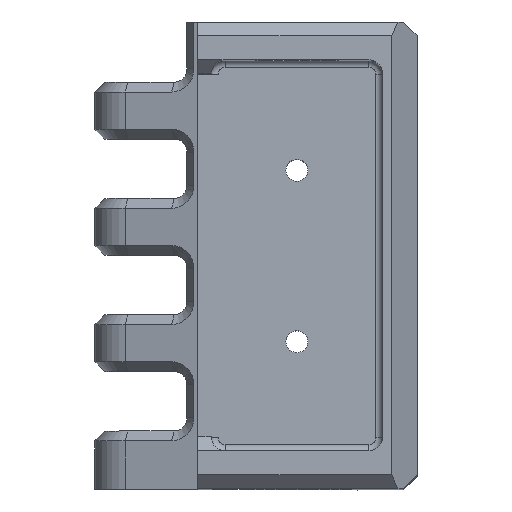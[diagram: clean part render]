
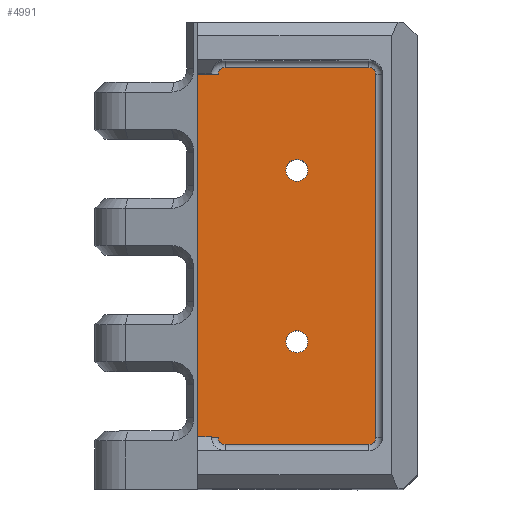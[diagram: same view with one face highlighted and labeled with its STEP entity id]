
A CAD part, top view. The second image highlights one B-rep face of the part: STEP entity #4991.
In plain terms, the highlighted planar face has unit normal (0, 0, 1).
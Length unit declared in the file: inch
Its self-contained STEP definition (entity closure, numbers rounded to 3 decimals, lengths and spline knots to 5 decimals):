
#52 = CARTESIAN_POINT ( 'NONE',  ( 1.4975, 1.655, 0. ) ) ;
#165 = EDGE_CURVE ( 'NONE', #937, #2949, #3794, .T. ) ;
#168 = AXIS2_PLACEMENT_3D ( 'NONE', #508, #7716, #1343 ) ;
#299 = EDGE_CURVE ( 'NONE', #5999, #2026, #6523, .T. ) ;
#494 = DIRECTION ( 'NONE',  ( 0., 0., 1. ) ) ;
#502 = FACE_OUTER_BOUND ( 'NONE', #5073, .T. ) ;
#508 = CARTESIAN_POINT ( 'NONE',  ( 0.78, -0.78, 0. ) ) ;
#516 = ORIENTED_EDGE ( 'NONE', *, *, #1718, .T. ) ;
#598 = FACE_BOUND ( 'NONE', #873, .T. ) ;
#636 = EDGE_CURVE ( 'NONE', #2949, #1066, #2157, .T. ) ;
#873 = EDGE_LOOP ( 'NONE', ( #5962, #4047 ) ) ;
#926 = VECTOR ( 'NONE', #3933, 39.37008 ) ;
#937 = VERTEX_POINT ( 'NONE', #1166 ) ;
#1066 = VERTEX_POINT ( 'NONE', #52 ) ;
#1099 = LINE ( 'NONE', #1750, #926 ) ;
#1154 = CARTESIAN_POINT ( 'NONE',  ( -0.125, 1.655, 0. ) ) ;
#1166 = CARTESIAN_POINT ( 'NONE',  ( 1.435, -1.7175, 0. ) ) ;
#1202 = EDGE_CURVE ( 'NONE', #7675, #6332, #4275, .T. ) ;
#1246 = PLANE ( 'NONE',  #4499 ) ;
#1343 = DIRECTION ( 'NONE',  ( 1., 0., 0. ) ) ;
#1456 = DIRECTION ( 'NONE',  ( 0., 1., 0. ) ) ;
#1552 = CIRCLE ( 'NONE', #1693, 0.0625 ) ;
#1693 = AXIS2_PLACEMENT_3D ( 'NONE', #2089, #4931, #2775 ) ;
#1716 = VERTEX_POINT ( 'NONE', #2686 ) ;
#1718 = EDGE_CURVE ( 'NONE', #1066, #7675, #1552, .T. ) ;
#1745 = CARTESIAN_POINT ( 'NONE',  ( 0.68, -0.78, 0. ) ) ;
#1750 = CARTESIAN_POINT ( 'NONE',  ( 1.435, -1.7175, 0. ) ) ;
#1797 = DIRECTION ( 'NONE',  ( 0., 0., 1. ) ) ;
#1844 = CARTESIAN_POINT ( 'NONE',  ( 0.125, 1.7175, 0. ) ) ;
#1937 = CIRCLE ( 'NONE', #5222, 0.0625 ) ;
#1941 = ORIENTED_EDGE ( 'NONE', *, *, #3325, .F. ) ;
#1965 = DIRECTION ( 'NONE',  ( 1., 0., 0. ) ) ;
#2023 = VECTOR ( 'NONE', #6194, 39.37008 ) ;
#2026 = VERTEX_POINT ( 'NONE', #3596 ) ;
#2089 = CARTESIAN_POINT ( 'NONE',  ( 1.435, 1.655, 0. ) ) ;
#2157 = LINE ( 'NONE', #6394, #8776 ) ;
#2188 = ORIENTED_EDGE ( 'NONE', *, *, #636, .T. ) ;
#2374 = EDGE_CURVE ( 'NONE', #9142, #8793, #3387, .T. ) ;
#2449 = CARTESIAN_POINT ( 'NONE',  ( 0.125, -1.655, 0. ) ) ;
#2492 = DIRECTION ( 'NONE',  ( 0., 0., 1. ) ) ;
#2515 = EDGE_CURVE ( 'NONE', #7430, #7242, #2794, .T. ) ;
#2583 = DIRECTION ( 'NONE',  ( -1., 0., 0. ) ) ;
#2622 = CARTESIAN_POINT ( 'NONE',  ( -0.125, 1.655, 0. ) ) ;
#2685 = CARTESIAN_POINT ( 'NONE',  ( 0.125, -1.7175, 0. ) ) ;
#2686 = CARTESIAN_POINT ( 'NONE',  ( 0.0625, 1.655, 0. ) ) ;
#2775 = DIRECTION ( 'NONE',  ( -1., 0., 0. ) ) ;
#2794 = LINE ( 'NONE', #2935, #3971 ) ;
#2935 = CARTESIAN_POINT ( 'NONE',  ( -0.125, -1.655, 0. ) ) ;
#2949 = VERTEX_POINT ( 'NONE', #6005 ) ;
#2974 = ORIENTED_EDGE ( 'NONE', *, *, #5938, .F. ) ;
#3299 = ORIENTED_EDGE ( 'NONE', *, *, #299, .F. ) ;
#3325 = EDGE_CURVE ( 'NONE', #7242, #1716, #7447, .T. ) ;
#3330 = DIRECTION ( 'NONE',  ( 0., 0., -1. ) ) ;
#3387 = CIRCLE ( 'NONE', #6670, 0.1 ) ;
#3390 = VERTEX_POINT ( 'NONE', #5414 ) ;
#3462 = CARTESIAN_POINT ( 'NONE',  ( 0.125, 1.655, 0. ) ) ;
#3596 = CARTESIAN_POINT ( 'NONE',  ( 0.68, 0.78, 0. ) ) ;
#3751 = EDGE_LOOP ( 'NONE', ( #3299, #2974 ) ) ;
#3794 = CIRCLE ( 'NONE', #7801, 0.0625 ) ;
#3916 = DIRECTION ( 'NONE',  ( 0., 0., 1. ) ) ;
#3933 = DIRECTION ( 'NONE',  ( 1., 0., 0. ) ) ;
#3971 = VECTOR ( 'NONE', #8608, 39.37008 ) ;
#3975 = CARTESIAN_POINT ( 'NONE',  ( 1.435, -1.655, 0. ) ) ;
#3994 = CARTESIAN_POINT ( 'NONE',  ( -0.125, -1.655, 0. ) ) ;
#4047 = ORIENTED_EDGE ( 'NONE', *, *, #7772, .F. ) ;
#4275 = LINE ( 'NONE', #6119, #7654 ) ;
#4372 = ORIENTED_EDGE ( 'NONE', *, *, #2515, .F. ) ;
#4499 = AXIS2_PLACEMENT_3D ( 'NONE', #7664, #3330, #7758 ) ;
#4670 = EDGE_CURVE ( 'NONE', #5997, #937, #1099, .T. ) ;
#4701 = LINE ( 'NONE', #3994, #2023 ) ;
#4795 = CARTESIAN_POINT ( 'NONE',  ( 1.435, 1.7175, 0. ) ) ;
#4927 = FACE_BOUND ( 'NONE', #3751, .T. ) ;
#4931 = DIRECTION ( 'NONE',  ( 0., 0., 1. ) ) ;
#4941 = DIRECTION ( 'NONE',  ( -1., 0., 0. ) ) ;
#4991 = ADVANCED_FACE ( 'NONE', ( #4927, #598, #502 ), #1246, .F. ) ;
#5073 = EDGE_LOOP ( 'NONE', ( #5844, #1941, #4372, #7495, #6240, #6389, #9089, #2188, #516, #8343 ) ) ;
#5195 = VECTOR ( 'NONE', #5355, 39.37008 ) ;
#5222 = AXIS2_PLACEMENT_3D ( 'NONE', #2449, #2492, #2583 ) ;
#5354 = DIRECTION ( 'NONE',  ( 0., 0., 1. ) ) ;
#5355 = DIRECTION ( 'NONE',  ( 1., 0., 0. ) ) ;
#5410 = CARTESIAN_POINT ( 'NONE',  ( 0.78, -0.78, 0. ) ) ;
#5414 = CARTESIAN_POINT ( 'NONE',  ( 0.0625, -1.655, 0. ) ) ;
#5442 = CARTESIAN_POINT ( 'NONE',  ( 0.78, 0.78, 0. ) ) ;
#5518 = CIRCLE ( 'NONE', #5833, 0.0625 ) ;
#5666 = AXIS2_PLACEMENT_3D ( 'NONE', #5442, #5354, #8183 ) ;
#5833 = AXIS2_PLACEMENT_3D ( 'NONE', #3462, #8441, #6268 ) ;
#5844 = ORIENTED_EDGE ( 'NONE', *, *, #6442, .T. ) ;
#5938 = EDGE_CURVE ( 'NONE', #2026, #5999, #9069, .T. ) ;
#5962 = ORIENTED_EDGE ( 'NONE', *, *, #2374, .F. ) ;
#5997 = VERTEX_POINT ( 'NONE', #2685 ) ;
#5999 = VERTEX_POINT ( 'NONE', #8361 ) ;
#6005 = CARTESIAN_POINT ( 'NONE',  ( 1.4975, -1.655, 0. ) ) ;
#6119 = CARTESIAN_POINT ( 'NONE',  ( 0.125, 1.7175, 0. ) ) ;
#6194 = DIRECTION ( 'NONE',  ( 1., 0., 0. ) ) ;
#6240 = ORIENTED_EDGE ( 'NONE', *, *, #7124, .T. ) ;
#6268 = DIRECTION ( 'NONE',  ( -1., 0., 0. ) ) ;
#6332 = VERTEX_POINT ( 'NONE', #1844 ) ;
#6389 = ORIENTED_EDGE ( 'NONE', *, *, #4670, .T. ) ;
#6394 = CARTESIAN_POINT ( 'NONE',  ( 1.4975, 1.655, 0. ) ) ;
#6442 = EDGE_CURVE ( 'NONE', #6332, #1716, #5518, .T. ) ;
#6523 = CIRCLE ( 'NONE', #8885, 0.1 ) ;
#6670 = AXIS2_PLACEMENT_3D ( 'NONE', #5410, #3916, #1965 ) ;
#7124 = EDGE_CURVE ( 'NONE', #3390, #5997, #1937, .T. ) ;
#7242 = VERTEX_POINT ( 'NONE', #2622 ) ;
#7430 = VERTEX_POINT ( 'NONE', #8607 ) ;
#7447 = LINE ( 'NONE', #1154, #5195 ) ;
#7495 = ORIENTED_EDGE ( 'NONE', *, *, #8480, .T. ) ;
#7654 = VECTOR ( 'NONE', #4941, 39.37008 ) ;
#7664 = CARTESIAN_POINT ( 'NONE',  ( 0., 0., 0. ) ) ;
#7675 = VERTEX_POINT ( 'NONE', #4795 ) ;
#7716 = DIRECTION ( 'NONE',  ( 0., 0., 1. ) ) ;
#7758 = DIRECTION ( 'NONE',  ( -1., 0., 0. ) ) ;
#7772 = EDGE_CURVE ( 'NONE', #8793, #9142, #8179, .T. ) ;
#7801 = AXIS2_PLACEMENT_3D ( 'NONE', #3975, #1797, #8861 ) ;
#8010 = CARTESIAN_POINT ( 'NONE',  ( 0.88, -0.78, 0. ) ) ;
#8179 = CIRCLE ( 'NONE', #168, 0.1 ) ;
#8183 = DIRECTION ( 'NONE',  ( 1., 0., 0. ) ) ;
#8343 = ORIENTED_EDGE ( 'NONE', *, *, #1202, .T. ) ;
#8361 = CARTESIAN_POINT ( 'NONE',  ( 0.88, 0.78, 0. ) ) ;
#8441 = DIRECTION ( 'NONE',  ( 0., 0., 1. ) ) ;
#8480 = EDGE_CURVE ( 'NONE', #7430, #3390, #4701, .T. ) ;
#8607 = CARTESIAN_POINT ( 'NONE',  ( -0.125, -1.655, 0. ) ) ;
#8608 = DIRECTION ( 'NONE',  ( 0., 1., 0. ) ) ;
#8776 = VECTOR ( 'NONE', #1456, 39.37008 ) ;
#8793 = VERTEX_POINT ( 'NONE', #1745 ) ;
#8861 = DIRECTION ( 'NONE',  ( -1., 0., 0. ) ) ;
#8885 = AXIS2_PLACEMENT_3D ( 'NONE', #9043, #494, #9138 ) ;
#9043 = CARTESIAN_POINT ( 'NONE',  ( 0.78, 0.78, 0. ) ) ;
#9069 = CIRCLE ( 'NONE', #5666, 0.1 ) ;
#9089 = ORIENTED_EDGE ( 'NONE', *, *, #165, .T. ) ;
#9138 = DIRECTION ( 'NONE',  ( 1., 0., 0. ) ) ;
#9142 = VERTEX_POINT ( 'NONE', #8010 ) ;
